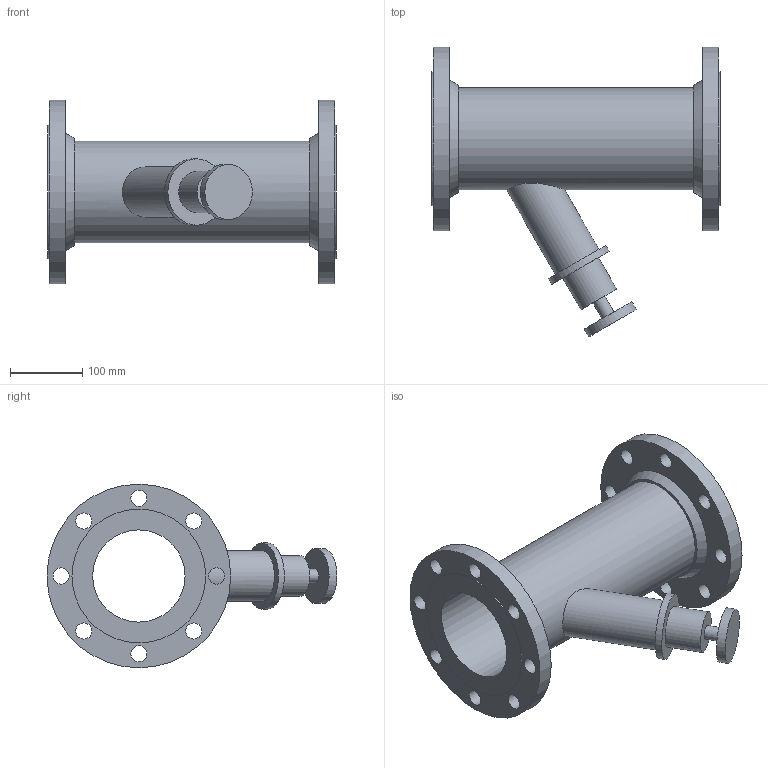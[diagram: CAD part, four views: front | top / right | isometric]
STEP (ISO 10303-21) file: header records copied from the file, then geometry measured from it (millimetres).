
FILE_DESCRIPTION(/* description */ ('VIC TA CIRCUIT BALANCING VALVE SERIES 788 (FLG)','CAx-IF Rec.Pracs.---Representation and Presentation of Product Manufacturing Information (PMI)---4.0---2014-10-13'),/* implementation_level */ '2;1');
FILE_NAME(/* name */ 'C:\Users\Vjadhav\AppData\Roaming\Autodesk\ApplicationPlugins\Back Up\Victaulic-IPS-TA Balancing Valve Series 788\Victaulic-IPS-TA Balancing Valve Series 788_5 (125).stp',/* time_stamp */ '2020-03-19T19:19:43+06:00',/* author */ ('cps_temp'),/* organization */ ('Victaulic'),/* preprocessor_version */ 'ST-DEVELOPER v17.2',/* originating_system */ 'Autodesk Inventor 2019',/* authorisation */ '');
FILE_SCHEMA (('AP242_MANAGED_MODEL_BASED_3D_ENGINEERING_MIM_LF { 1 0 10303 442 1 1 4 }'));
Length unit declared in the file: inch
Products named in the file (1): 788-05.0
Bounding box: 400.05 x 402.59 x 255.02 mm (x, y, z)
Volume: 3384760.9 mm3; surface area: 567020.7 mm2
Topology: 1 solids, 1 shells, 42 faces, 115 edges, 85 vertices
Faces by surface type: cylinder 27, plane 13, cone 2
Full cylindrical faces by diameter (mm): 19.05 x1, 22.352 x16, 57.15 x1, 69.85 x1, 76.2 x1, 92.05 x1, 128.194 x1, 141.3 x1, 185.674 x2, 255.016 x2
Entity records: 1720 total; most frequent: CARTESIAN_POINT 323, DIRECTION 306, ORIENTED_EDGE 230, AXIS2_PLACEMENT_3D 138, EDGE_CURVE 115, EDGE_LOOP 86, VERTEX_POINT 85, CIRCLE 82
